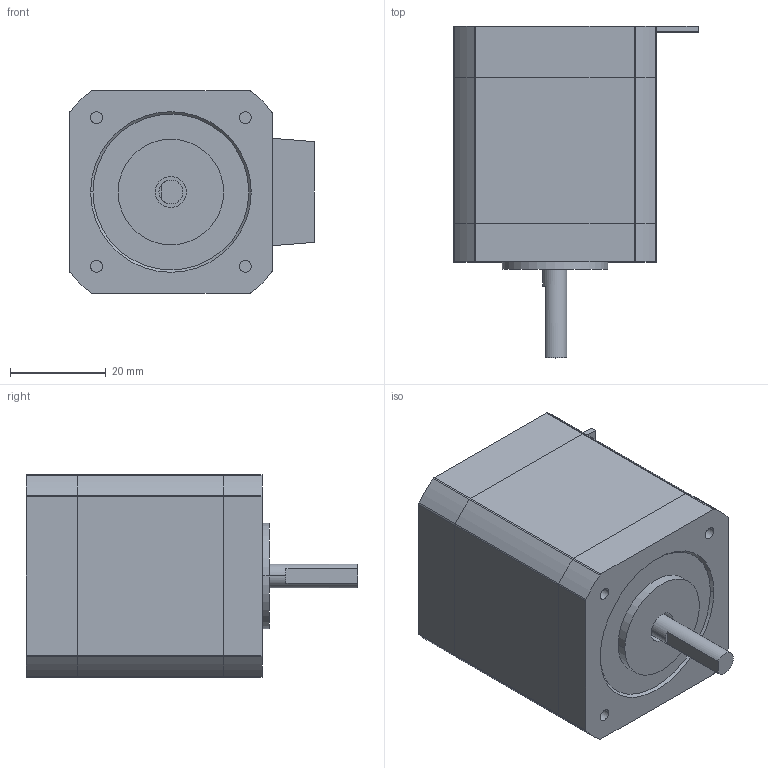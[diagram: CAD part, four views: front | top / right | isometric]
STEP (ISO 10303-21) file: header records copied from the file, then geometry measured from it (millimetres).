
FILE_DESCRIPTION (( 'STEP AP203' ), '1' );
FILE_NAME ('42CM04 V3.0.STEP', '2026-09-09T07:36:06', ( 'YOS' ), ( 'MS' ), 'SwSTEP 2.0', 'SolidWorks 2023', '' );
FILE_SCHEMA (( 'CONFIG_CONTROL_DESIGN' ));
Length unit declared in the file: millimetre
Products named in the file (5): cross recessed small pan head screws gb_GB_CROSS_SCREWS_TYPE3 M3X30-30-S; 42五相前端盖（出轴18.5）; 42五相后端盖; 42CM04 V3.0; 42五相定子-H30.5
Assembly tree (7 placements, depth 2):
  42CM04 V3.0
    42五相定子-H30.5
    42五相后端盖
    42五相前端盖（出轴18.5）
    cross recessed small pan head screws gb_GB_CROSS_SCREWS_TYPE3 M3X30-30-S  x4
Bounding box: 50.98 x 69.2 x 42.18 mm (x, y, z)
Volume: 83767.6 mm3; surface area: 23813.4 mm2
Topology: 8 solids, 8 shells, 2412 faces, 4964 edges, 2578 vertices
Faces by surface type: cone 1466, cylinder 836, plane 102, sphere 8
Entity records: 18953 total; most frequent: DIRECTION 3616, CARTESIAN_POINT 3003, ORIENTED_EDGE 2956, EDGE_CURVE 1478, AXIS2_PLACEMENT_3D 1439, VERTEX_POINT 802, VECTOR 738, LINE 738
